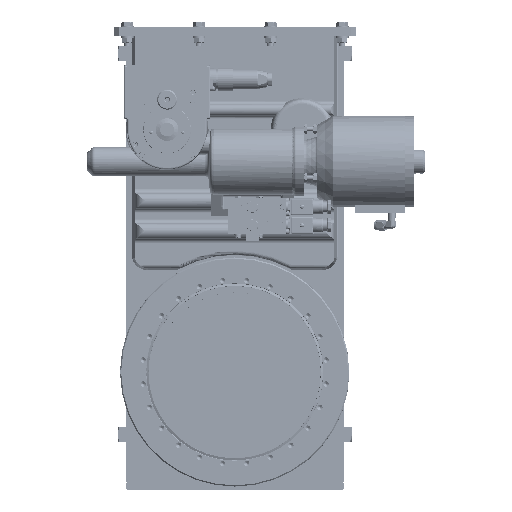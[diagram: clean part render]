
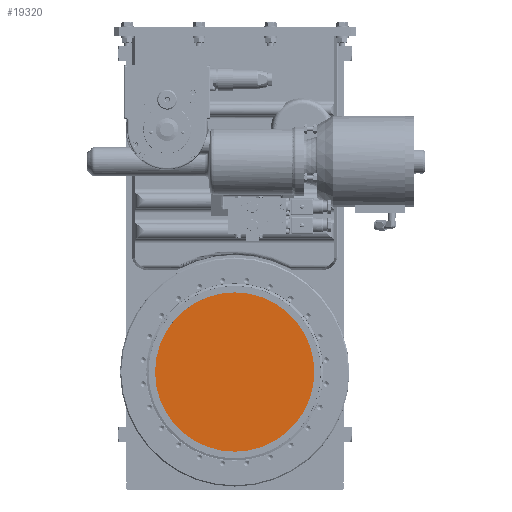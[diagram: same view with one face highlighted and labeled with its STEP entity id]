
A CAD part, top view. The second image highlights one B-rep face of the part: STEP entity #19320.
In plain terms, the highlighted planar face has unit normal (0, 0, 1).
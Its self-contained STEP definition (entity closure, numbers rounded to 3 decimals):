
#15940=PLANE('',#55830);
#17378=FACE_OUTER_BOUND('',#25738,.T.);
#19320=ADVANCED_FACE('',(#17378),#15940,.T.);
#25738=EDGE_LOOP('',(#30066));
#30066=ORIENTED_EDGE('',*,*,#47237,.T.);
#42674=VERTEX_POINT('',#74578);
#47237=EDGE_CURVE('',#42674,#42674,#53542,.T.);
#53542=CIRCLE('',#55827,100.175);
#55827=AXIS2_PLACEMENT_3D('',#74577,#61143,#61144);
#55830=AXIS2_PLACEMENT_3D('',#74581,#61149,#61150);
#61143=DIRECTION('',(0.,0.,1.));
#61144=DIRECTION('',(-1.,0.,0.));
#61149=DIRECTION('',(0.,0.,1.));
#61150=DIRECTION('',(1.,0.,0.));
#74577=CARTESIAN_POINT('',(-0.05,0.,51.4));
#74578=CARTESIAN_POINT('',(-100.225,0.,51.4));
#74581=CARTESIAN_POINT('',(-0.05,0.,51.4));
